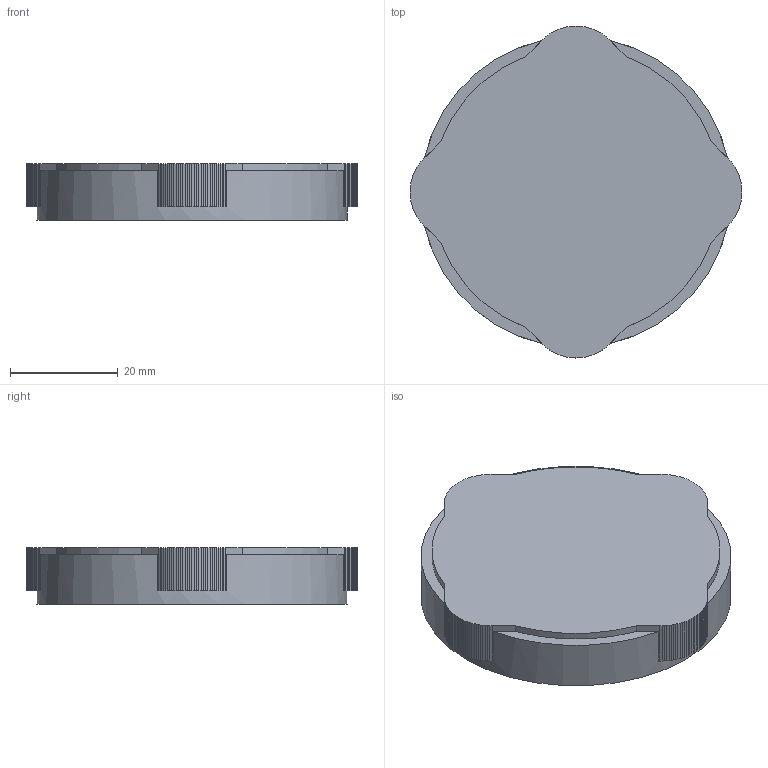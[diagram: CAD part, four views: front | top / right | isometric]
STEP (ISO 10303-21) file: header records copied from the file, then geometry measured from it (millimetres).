
FILE_DESCRIPTION(('Open CASCADE Model'),'2;1');
FILE_NAME('Open CASCADE Shape Model','2026-11-03T18:39:04',('Author'),( 'Open CASCADE'),'Open CASCADE STEP processor 7.9','Open CASCADE 7.9' ,'Unknown');
FILE_SCHEMA(('AUTOMOTIVE_DESIGN { 1 0 10303 214 1 1 1 1 }'));
Length unit declared in the file: millimetre
Products named in the file (1): Open CASCADE STEP translator 7.9 9
Bounding box: 61.6 x 61.6 x 10.5 mm (x, y, z)
Volume: 8503.8 mm3; surface area: 8839.5 mm2
Topology: 1 solids, 1 shells, 159 faces, 459 edges, 306 vertices
Faces by surface type: plane 150, cylinder 9
Full cylindrical faces by diameter (mm): 5.2 x1, 7 x1, 50 x1, 51.95 x1, 57.6 x1
Entity records: 11086 total; most frequent: CARTESIAN_POINT 1927, DIRECTION 1669, LINE 1277, VECTOR 1277, ORIENTED_EDGE 918, PCURVE 918, DEFINITIONAL_REPRESENTATION 918, EDGE_CURVE 459
